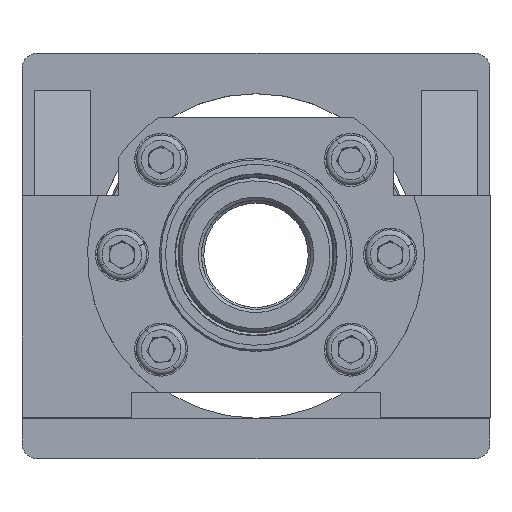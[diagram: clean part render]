
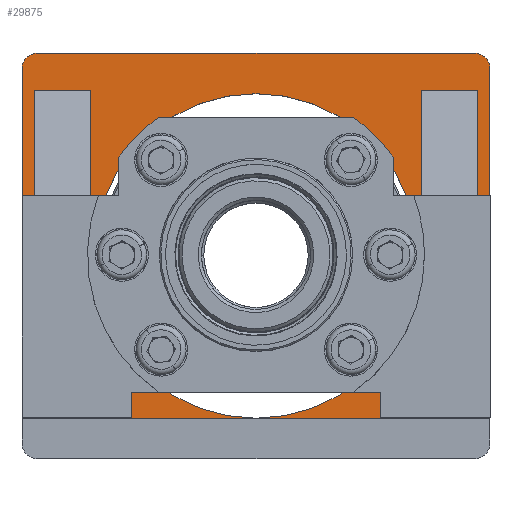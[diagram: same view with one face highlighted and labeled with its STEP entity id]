
A CAD part, top view. The second image highlights one B-rep face of the part: STEP entity #29875.
In plain terms, the highlighted planar face has unit normal (0, 0, 1).
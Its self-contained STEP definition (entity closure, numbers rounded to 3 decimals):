
#289 = VECTOR ( 'NONE', #17631, 1000. ) ;
#436 = ORIENTED_EDGE ( 'NONE', *, *, #15314, .F. ) ;
#914 = DIRECTION ( 'NONE',  ( -1., 0., 0. ) ) ;
#993 = DIRECTION ( 'NONE',  ( 0., 0., 1. ) ) ;
#1109 = EDGE_CURVE ( 'NONE', #17422, #17053, #20522, .T. ) ;
#1161 = CARTESIAN_POINT ( 'NONE',  ( -75., 65., 22. ) ) ;
#1231 = CARTESIAN_POINT ( 'NONE',  ( -70., 65., 22. ) ) ;
#1257 = CIRCLE ( 'NONE', #18315, 5. ) ;
#1559 = VECTOR ( 'NONE', #13587, 1000. ) ;
#2029 = VERTEX_POINT ( 'NONE', #7584 ) ;
#2199 = DIRECTION ( 'NONE',  ( 0., -1., 0. ) ) ;
#2660 = VERTEX_POINT ( 'NONE', #14339 ) ;
#3052 = CARTESIAN_POINT ( 'NONE',  ( 53., 53., 22. ) ) ;
#3119 = DIRECTION ( 'NONE',  ( -1., 0., 0. ) ) ;
#3363 = CARTESIAN_POINT ( 'NONE',  ( 75., 60., 22. ) ) ;
#3498 = AXIS2_PLACEMENT_3D ( 'NONE', #15100, #993, #17467 ) ;
#3583 = CIRCLE ( 'NONE', #9001, 5. ) ;
#3841 = ORIENTED_EDGE ( 'NONE', *, *, #23732, .T. ) ;
#4052 = ORIENTED_EDGE ( 'NONE', *, *, #24292, .F. ) ;
#4623 = VECTOR ( 'NONE', #4986, 1000. ) ;
#4702 = DIRECTION ( 'NONE',  ( 1., 0., 0. ) ) ;
#4986 = DIRECTION ( 'NONE',  ( 0., 1., 0. ) ) ;
#5166 = VERTEX_POINT ( 'NONE', #8386 ) ;
#5367 = CARTESIAN_POINT ( 'NONE',  ( 75., -52.01, 22. ) ) ;
#5659 = CARTESIAN_POINT ( 'NONE',  ( -75., 65., 22. ) ) ;
#6009 = CARTESIAN_POINT ( 'NONE',  ( 52., 0., 22. ) ) ;
#6090 = DIRECTION ( 'NONE',  ( 0., 0., 1. ) ) ;
#6184 = ORIENTED_EDGE ( 'NONE', *, *, #29723, .F. ) ;
#6232 = EDGE_CURVE ( 'NONE', #18608, #17214, #10837, .T. ) ;
#6364 = FACE_BOUND ( 'NONE', #20559, .T. ) ;
#6605 = DIRECTION ( 'NONE',  ( 0., 0., 1. ) ) ;
#6811 = CARTESIAN_POINT ( 'NONE',  ( -75., -65., 22. ) ) ;
#7155 = CARTESIAN_POINT ( 'NONE',  ( 71., 53., 22. ) ) ;
#7184 = VERTEX_POINT ( 'NONE', #30478 ) ;
#7192 = VERTEX_POINT ( 'NONE', #9327 ) ;
#7205 = EDGE_CURVE ( 'NONE', #17422, #2029, #17985, .T. ) ;
#7297 = VERTEX_POINT ( 'NONE', #7155 ) ;
#7529 = VERTEX_POINT ( 'NONE', #21543 ) ;
#7584 = CARTESIAN_POINT ( 'NONE',  ( 71., -52., 22. ) ) ;
#7941 = EDGE_CURVE ( 'NONE', #8389, #5166, #3583, .T. ) ;
#8083 = ORIENTED_EDGE ( 'NONE', *, *, #29719, .F. ) ;
#8386 = CARTESIAN_POINT ( 'NONE',  ( -75., 60., 22. ) ) ;
#8389 = VERTEX_POINT ( 'NONE', #1231 ) ;
#8569 = FACE_BOUND ( 'NONE', #8928, .T. ) ;
#8790 = VERTEX_POINT ( 'NONE', #21012 ) ;
#8928 = EDGE_LOOP ( 'NONE', ( #8083, #436 ) ) ;
#8969 = PLANE ( 'NONE',  #29029 ) ;
#9001 = AXIS2_PLACEMENT_3D ( 'NONE', #20174, #6090, #22532 ) ;
#9177 = DIRECTION ( 'NONE',  ( 0., 0., 1. ) ) ;
#9223 = LINE ( 'NONE', #14519, #14716 ) ;
#9256 = VECTOR ( 'NONE', #914, 1000. ) ;
#9327 = CARTESIAN_POINT ( 'NONE',  ( 70., 65., 22. ) ) ;
#9350 = EDGE_LOOP ( 'NONE', ( #3841, #19223, #18258, #11554, #22803, #18110 ) ) ;
#9418 = DIRECTION ( 'NONE',  ( 0., 1., 0. ) ) ;
#9492 = VECTOR ( 'NONE', #28870, 1000. ) ;
#9901 = VERTEX_POINT ( 'NONE', #23285 ) ;
#10261 = CARTESIAN_POINT ( 'NONE',  ( 70., 60., 22. ) ) ;
#10741 = LINE ( 'NONE', #19589, #23300 ) ;
#10837 = LINE ( 'NONE', #11972, #4623 ) ;
#11554 = ORIENTED_EDGE ( 'NONE', *, *, #14911, .T. ) ;
#11972 = CARTESIAN_POINT ( 'NONE',  ( 75., 65., 22. ) ) ;
#12533 = CARTESIAN_POINT ( 'NONE',  ( 53., 17., 22. ) ) ;
#12634 = DIRECTION ( 'NONE',  ( 1., 0., 0. ) ) ;
#12985 = EDGE_CURVE ( 'NONE', #8790, #18002, #15679, .T. ) ;
#13267 = LINE ( 'NONE', #13804, #18825 ) ;
#13587 = DIRECTION ( 'NONE',  ( -1., 0., 0. ) ) ;
#13804 = CARTESIAN_POINT ( 'NONE',  ( -71., -52., 22. ) ) ;
#14174 = ORIENTED_EDGE ( 'NONE', *, *, #24705, .T. ) ;
#14339 = CARTESIAN_POINT ( 'NONE',  ( -53., -52., 22. ) ) ;
#14519 = CARTESIAN_POINT ( 'NONE',  ( -76.047, -52.01, 22. ) ) ;
#14716 = VECTOR ( 'NONE', #23959, 1000. ) ;
#14911 = EDGE_CURVE ( 'NONE', #17214, #7192, #1257, .T. ) ;
#14935 = VECTOR ( 'NONE', #2199, 1000. ) ;
#15100 = CARTESIAN_POINT ( 'NONE',  ( 0., 0., 22. ) ) ;
#15314 = EDGE_CURVE ( 'NONE', #16563, #7184, #22607, .T. ) ;
#15679 = LINE ( 'NONE', #18682, #14935 ) ;
#16215 = EDGE_CURVE ( 'NONE', #7297, #17053, #10741, .T. ) ;
#16414 = CARTESIAN_POINT ( 'NONE',  ( -53., 17., 22. ) ) ;
#16526 = VECTOR ( 'NONE', #4702, 1000. ) ;
#16563 = VERTEX_POINT ( 'NONE', #6009 ) ;
#16968 = LINE ( 'NONE', #5659, #9256 ) ;
#17053 = VERTEX_POINT ( 'NONE', #3052 ) ;
#17214 = VERTEX_POINT ( 'NONE', #3363 ) ;
#17422 = VERTEX_POINT ( 'NONE', #29460 ) ;
#17467 = DIRECTION ( 'NONE',  ( 1., 0., 0. ) ) ;
#17631 = DIRECTION ( 'NONE',  ( 0., -1., 0. ) ) ;
#17985 = LINE ( 'NONE', #18796, #16526 ) ;
#18002 = VERTEX_POINT ( 'NONE', #21579 ) ;
#18095 = EDGE_LOOP ( 'NONE', ( #19081, #23916, #23282, #14174 ) ) ;
#18110 = ORIENTED_EDGE ( 'NONE', *, *, #7941, .T. ) ;
#18258 = ORIENTED_EDGE ( 'NONE', *, *, #6232, .T. ) ;
#18315 = AXIS2_PLACEMENT_3D ( 'NONE', #10261, #26709, #12634 ) ;
#18608 = VERTEX_POINT ( 'NONE', #5367 ) ;
#18682 = CARTESIAN_POINT ( 'NONE',  ( -71., 17., 22. ) ) ;
#18792 = EDGE_CURVE ( 'NONE', #7192, #8389, #16968, .T. ) ;
#18796 = CARTESIAN_POINT ( 'NONE',  ( 53., -52., 22. ) ) ;
#18825 = VECTOR ( 'NONE', #30325, 1000. ) ;
#18902 = FACE_BOUND ( 'NONE', #18095, .T. ) ;
#19074 = LINE ( 'NONE', #1161, #289 ) ;
#19081 = ORIENTED_EDGE ( 'NONE', *, *, #7205, .F. ) ;
#19223 = ORIENTED_EDGE ( 'NONE', *, *, #20382, .T. ) ;
#19233 = EDGE_CURVE ( 'NONE', #18002, #2660, #13267, .T. ) ;
#19589 = CARTESIAN_POINT ( 'NONE',  ( -75., 53., 22. ) ) ;
#19600 = AXIS2_PLACEMENT_3D ( 'NONE', #20689, #6605, #23057 ) ;
#19769 = VECTOR ( 'NONE', #28958, 1000. ) ;
#20174 = CARTESIAN_POINT ( 'NONE',  ( -70., 60., 22. ) ) ;
#20342 = LINE ( 'NONE', #30008, #1559 ) ;
#20379 = ORIENTED_EDGE ( 'NONE', *, *, #19233, .F. ) ;
#20382 = EDGE_CURVE ( 'NONE', #9901, #18608, #9223, .T. ) ;
#20522 = LINE ( 'NONE', #12533, #19769 ) ;
#20559 = EDGE_LOOP ( 'NONE', ( #20379, #21376, #6184, #4052 ) ) ;
#20689 = CARTESIAN_POINT ( 'NONE',  ( 0., 0., 22. ) ) ;
#21012 = CARTESIAN_POINT ( 'NONE',  ( -71., 53., 22. ) ) ;
#21264 = LINE ( 'NONE', #26515, #9492 ) ;
#21376 = ORIENTED_EDGE ( 'NONE', *, *, #12985, .F. ) ;
#21543 = CARTESIAN_POINT ( 'NONE',  ( -53., 53., 22. ) ) ;
#21579 = CARTESIAN_POINT ( 'NONE',  ( -71., -52., 22. ) ) ;
#22532 = DIRECTION ( 'NONE',  ( 1., 0., 0. ) ) ;
#22607 = CIRCLE ( 'NONE', #3498, 52. ) ;
#22803 = ORIENTED_EDGE ( 'NONE', *, *, #18792, .T. ) ;
#23057 = DIRECTION ( 'NONE',  ( 1., 0., 0. ) ) ;
#23282 = ORIENTED_EDGE ( 'NONE', *, *, #16215, .F. ) ;
#23285 = CARTESIAN_POINT ( 'NONE',  ( -75., -52.01, 22. ) ) ;
#23300 = VECTOR ( 'NONE', #3119, 1000. ) ;
#23732 = EDGE_CURVE ( 'NONE', #5166, #9901, #19074, .T. ) ;
#23916 = ORIENTED_EDGE ( 'NONE', *, *, #1109, .T. ) ;
#23959 = DIRECTION ( 'NONE',  ( 1., 0., 0. ) ) ;
#24178 = VECTOR ( 'NONE', #9418, 1000. ) ;
#24292 = EDGE_CURVE ( 'NONE', #2660, #7529, #24926, .T. ) ;
#24372 = FACE_OUTER_BOUND ( 'NONE', #9350, .T. ) ;
#24705 = EDGE_CURVE ( 'NONE', #7297, #2029, #21264, .T. ) ;
#24926 = LINE ( 'NONE', #16414, #24178 ) ;
#25624 = DIRECTION ( 'NONE',  ( 1., 0., 0. ) ) ;
#26515 = CARTESIAN_POINT ( 'NONE',  ( 71., 17., 22. ) ) ;
#26570 = CIRCLE ( 'NONE', #19600, 52. ) ;
#26709 = DIRECTION ( 'NONE',  ( 0., 0., 1. ) ) ;
#28870 = DIRECTION ( 'NONE',  ( 0., -1., 0. ) ) ;
#28958 = DIRECTION ( 'NONE',  ( 0., 1., 0. ) ) ;
#29029 = AXIS2_PLACEMENT_3D ( 'NONE', #6811, #9177, #25624 ) ;
#29460 = CARTESIAN_POINT ( 'NONE',  ( 53., -52., 22. ) ) ;
#29719 = EDGE_CURVE ( 'NONE', #7184, #16563, #26570, .T. ) ;
#29723 = EDGE_CURVE ( 'NONE', #7529, #8790, #20342, .T. ) ;
#29875 = ADVANCED_FACE ( 'NONE', ( #8569, #24372, #6364, #18902 ), #8969, .T. ) ;
#30008 = CARTESIAN_POINT ( 'NONE',  ( -75., 53., 22. ) ) ;
#30325 = DIRECTION ( 'NONE',  ( 1., 0., 0. ) ) ;
#30478 = CARTESIAN_POINT ( 'NONE',  ( -52., 0., 22. ) ) ;
